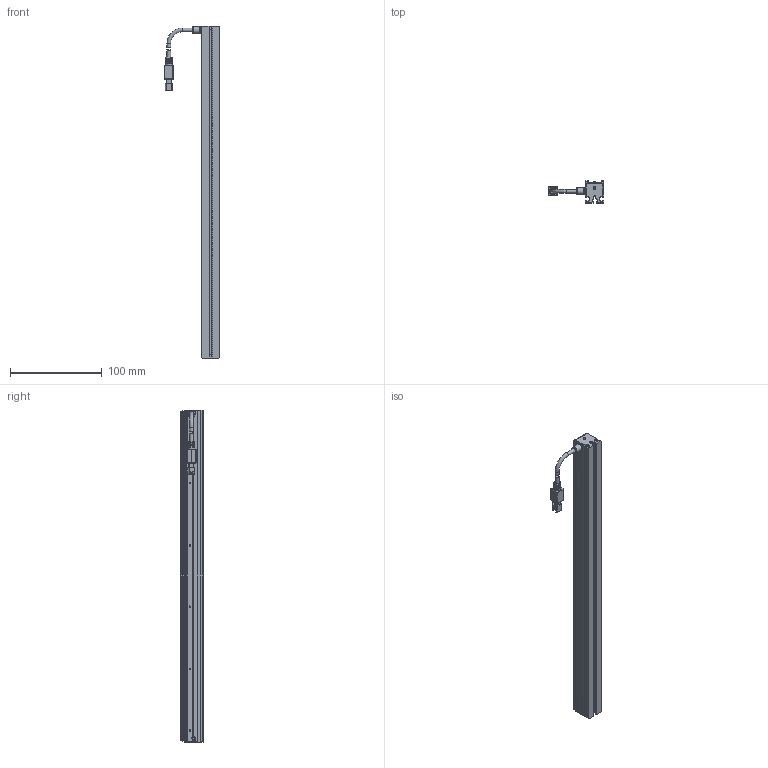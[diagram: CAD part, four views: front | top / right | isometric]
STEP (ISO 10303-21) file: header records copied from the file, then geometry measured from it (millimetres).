
FILE_DESCRIPTION (( 'STEP AP203' ), '1' );
FILE_NAME ('OPT-ILI36220-IR-V1.0U尨砩芞.STEP', '2025-01-18T08:25:10', ( '' ), ( '' ), 'SwSTEP 2.0', 'SolidWorks 2016', '' );
FILE_SCHEMA (( 'CONFIG_CONTROL_DESIGN' ));
Length unit declared in the file: millimetre
Products named in the file (1): OPT-ILI36220-IR-V1.0U尨砩芞
Bounding box: 60.6 x 24 x 362 mm (x, y, z)
Volume: 139692.2 mm3; surface area: 62336.6 mm2
Topology: 5 solids, 15 shells, 621 faces, 1612 edges, 1044 vertices
Faces by surface type: plane 422, cylinder 139, cone 30, bspline 20, torus 10
Full cylindrical faces by diameter (mm): 1.1 x2, 1.4 x4, 1.6 x19, 1.8 x2, 2 x7, 2.4 x7, 2.5 x2, 2.6 x2, 3 x2, 3.5 x1, 4.1 x3, 7.5 x2, 8 x1
Entity records: 18823 total; most frequent: CARTESIAN_POINT 4288, ORIENTED_EDGE 2958, DIRECTION 2880, EDGE_CURVE 1479, LINE 1014, VECTOR 1014, VERTEX_POINT 997, AXIS2_PLACEMENT_3D 933
